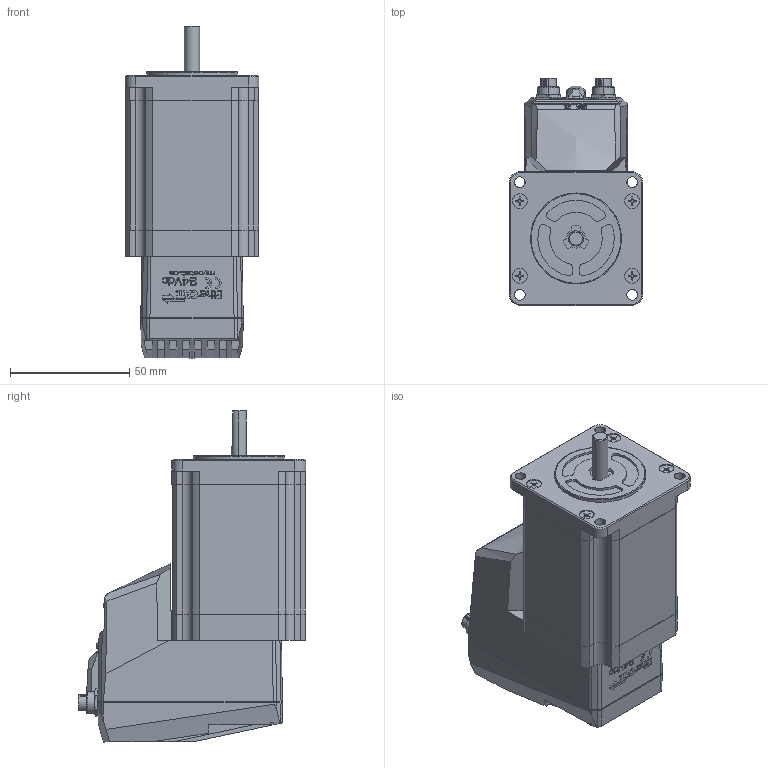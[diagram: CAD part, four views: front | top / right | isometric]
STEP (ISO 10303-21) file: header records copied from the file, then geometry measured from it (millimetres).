
FILE_DESCRIPTION (( 'STEP AP214' ), '1' );
FILE_NAME ('CM1-E-23L20.STEP', '2019-10-28T18:05:50', ( '' ), ( '' ), 'SwSTEP 2.0', 'SolidWorks 2019', '' );
FILE_SCHEMA (( 'AUTOMOTIVE_DESIGN' ));
Length unit declared in the file: millimetre
Products named in the file (1): CM1-E-23L20
Bounding box: 56 x 95.24 x 139.04 mm (x, y, z)
Surface area: 68719.4 mm2 (no closed solid volume)
Topology: 0 solids, 101 shells, 4668 faces, 14566 edges, 9980 vertices
Faces by surface type: plane 3210, cylinder 861, bspline 384, cone 179, sphere 30, torus 4
Entity records: 226336 total; most frequent: CARTESIAN_POINT 91346, ORIENTED_EDGE 26224, DIRECTION 21776, EDGE_CURVE 14501, VECTOR 10736, LINE 10736, VERTEX_POINT 9960, AXIS2_PLACEMENT_3D 5520
